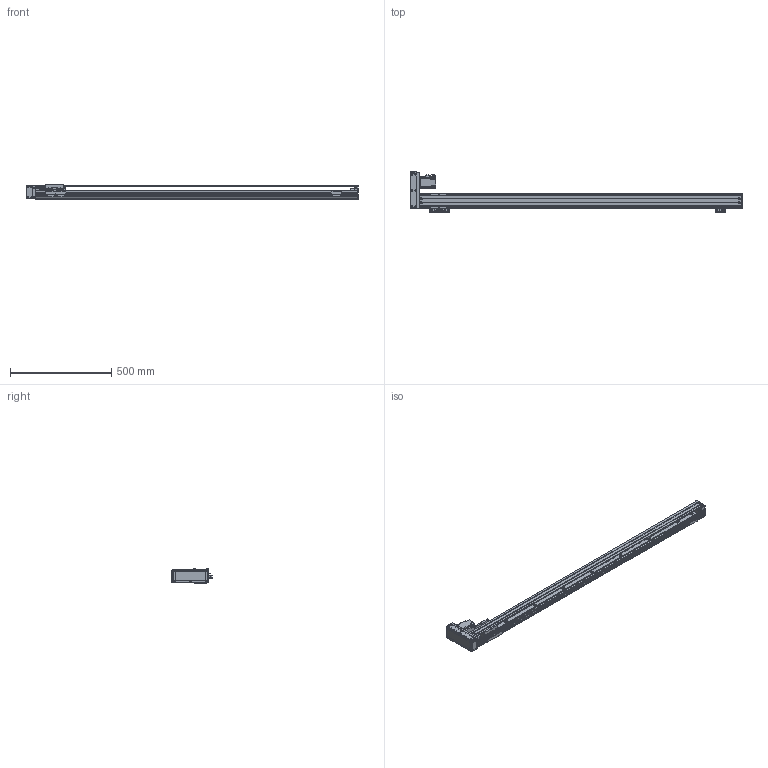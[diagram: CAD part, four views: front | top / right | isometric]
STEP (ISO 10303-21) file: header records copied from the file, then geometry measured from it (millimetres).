
FILE_DESCRIPTION(/* description */ (''),/* implementation_level */ '2;1');
FILE_NAME(/* name */ '\\192.168.0.160\disk1\HAN SHIN Master\B-설계부문\C-표준\B-2024년\BC02-표준도면\+로봇 개선표준도면\홈페이지 표준 도면\홈페이지 최종 작업 폴더\3D\HR\HR75\HR75병렬\좌병렬\HR75-L20-N1B-1400-R10.stp',/* time_stamp */ '2025-01-18T15:33:15+09:00',/* author */ ('user'),/* organization */ (''),/* preprocessor_version */ 'ST-DEVELOPER v18.1',/* originating_system */ 'Autodesk Inventor 2022',/* authorisation */ '');
FILE_SCHEMA (('CONFIG_CONTROL_DESIGN','TECHNICAL_DATA_PACKAGING'));
Products named in the file (23): HG75-L20-N1B-0500-R10 - 간소화; BASE; HR75 FRONT BLOCK; HR75 REAR COVER-TENTION; HR75 TENSION REAR BLOCK; HG3UPCOV001; H 15F_BLOCK; HR65,75 SENSOR DOG; HG90STOPPER - 20L; HG90STOPPER - 27L; MOTOR PLATE-200W(MITSUBISHI); HC75-LR-MOTOR PLATE(200W)-사출; 화살표; HR75-LR-BELT COVER(200W); HR75-BELT COVER-COVER2; HR75-BELT COVER-COVER; hg-kr23_; HR65-BELT COVER-COVER3; M-5HL-4; HR75 W TABLE; LMKE1520 NUT; SENSOR BRK(EE-SX674A); EE_SX674A
Assembly tree (28 placements, depth 2):
  HG75-L20-N1B-0500-R10 - 간소화
    BASE
    HR75 FRONT BLOCK
    HR75 REAR COVER-TENTION
    SENSOR BRK(EE-SX674A)  x3
    EE_SX674A  x3
    HR75 TENSION REAR BLOCK
    HG3UPCOV001
    H 15F_BLOCK
    HR65,75 SENSOR DOG
    HG90STOPPER - 20L
    HG90STOPPER - 27L
    MOTOR PLATE-200W(MITSUBISHI)
    HC75-LR-MOTOR PLATE(200W)-사출
    화살표  x2
    HR75-LR-BELT COVER(200W)
    HR75-BELT COVER-COVER2
    HR75-BELT COVER-COVER
    HR65-BELT COVER-COVER3  x2
    hg-kr23_
    M-5HL-4
    HR75 W TABLE
    LMKE1520 NUT
Bounding box: 1639 x 199 x 73 mm (x, y, z)
Volume: 2375890.6 mm3; surface area: 1102260.6 mm2
Topology: 28 solids, 28 shells, 2940 faces, 8087 edges, 5345 vertices
Faces by surface type: plane 2187, cylinder 638, cone 107, sphere 8
Full cylindrical faces by diameter (mm): 1.8 x1, 2 x4, 2.013 x2, 2.459 x16, 2.5 x2, 3 x8, 3.242 x46, 3.4 x20, 3.5 x6, 4.134 x52, 4.5 x22, 4.917 x5, 5 x31, 5.5 x36, 5.6 x8, 5.8 x4, 5.9 x8, 6 x4, 6.5 x1, 7 x1, 8 x1, 9.5 x32, 14 x1, 15 x3, 17 x1, 20 x1, 25 x2, 28 x1, 32 x2, 33.7 x1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
Entity records: 88869 total; most frequent: CARTESIAN_POINT 16028, ORIENTED_EDGE 15058, DIRECTION 14340, EDGE_CURVE 7529, LINE 6186, VECTOR 6186, VERTEX_POINT 5013, AXIS2_PLACEMENT_3D 4077
